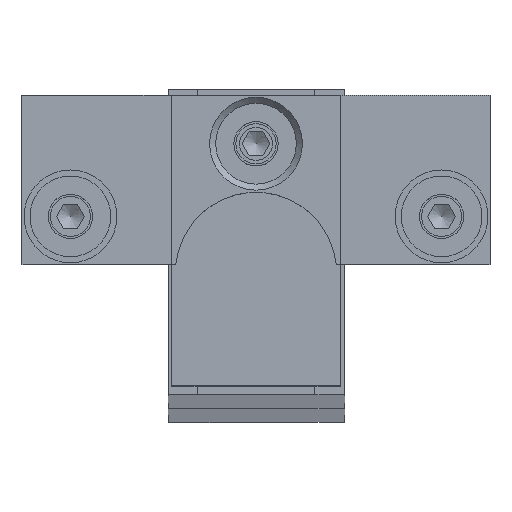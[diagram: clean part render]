
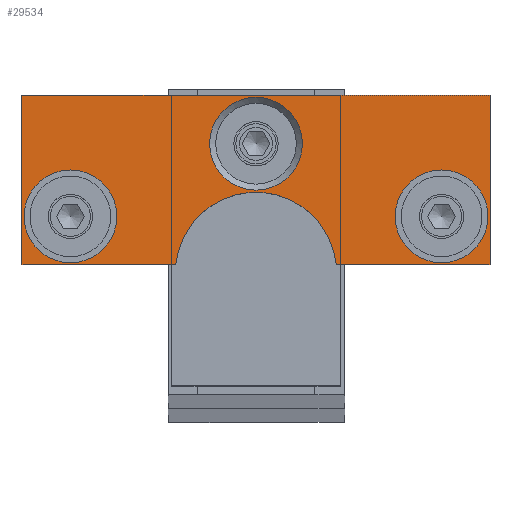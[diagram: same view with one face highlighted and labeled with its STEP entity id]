
A CAD part, top view. The second image highlights one B-rep face of the part: STEP entity #29534.
In plain terms, the highlighted planar face has unit normal (0, 0, 1).
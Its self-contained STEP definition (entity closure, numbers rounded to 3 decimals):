
#391=FACE_BOUND('',#3859,.T.);
#392=FACE_BOUND('',#3860,.T.);
#393=FACE_BOUND('',#3861,.T.);
#817=PLANE('',#31900);
#2129=FACE_OUTER_BOUND('',#3858,.T.);
#3858=EDGE_LOOP('',(#20364,#20365,#20366,#20367,#20368,#20369));
#3859=EDGE_LOOP('',(#20370));
#3860=EDGE_LOOP('',(#20371));
#3861=EDGE_LOOP('',(#20372));
#6101=LINE('',#50587,#7156);
#6102=LINE('',#50589,#7157);
#6103=LINE('',#50591,#7158);
#6104=LINE('',#50595,#7159);
#6105=LINE('',#50596,#7160);
#7156=VECTOR('',#37563,10.);
#7157=VECTOR('',#37564,10.);
#7158=VECTOR('',#37565,10.);
#7159=VECTOR('',#37568,10.);
#7160=VECTOR('',#37569,10.);
#8496=CIRCLE('',#31898,5.75);
#8498=CIRCLE('',#31901,10.);
#8499=CIRCLE('',#31902,5.75);
#8500=CIRCLE('',#31903,5.75);
#11512=VERTEX_POINT('',#50579);
#11514=VERTEX_POINT('',#50585);
#11515=VERTEX_POINT('',#50586);
#11516=VERTEX_POINT('',#50588);
#11517=VERTEX_POINT('',#50590);
#11518=VERTEX_POINT('',#50592);
#11519=VERTEX_POINT('',#50594);
#11520=VERTEX_POINT('',#50597);
#11521=VERTEX_POINT('',#50599);
#15037=EDGE_CURVE('',#11512,#11512,#8496,.T.);
#15040=EDGE_CURVE('',#11514,#11515,#6101,.T.);
#15041=EDGE_CURVE('',#11515,#11516,#6102,.T.);
#15042=EDGE_CURVE('',#11516,#11517,#6103,.T.);
#15043=EDGE_CURVE('',#11517,#11518,#8498,.T.);
#15044=EDGE_CURVE('',#11518,#11519,#6104,.T.);
#15045=EDGE_CURVE('',#11519,#11514,#6105,.T.);
#15046=EDGE_CURVE('',#11520,#11520,#8499,.T.);
#15047=EDGE_CURVE('',#11521,#11521,#8500,.T.);
#20364=ORIENTED_EDGE('',*,*,#15040,.T.);
#20365=ORIENTED_EDGE('',*,*,#15041,.T.);
#20366=ORIENTED_EDGE('',*,*,#15042,.T.);
#20367=ORIENTED_EDGE('',*,*,#15043,.T.);
#20368=ORIENTED_EDGE('',*,*,#15044,.T.);
#20369=ORIENTED_EDGE('',*,*,#15045,.T.);
#20370=ORIENTED_EDGE('',*,*,#15046,.F.);
#20371=ORIENTED_EDGE('',*,*,#15047,.F.);
#20372=ORIENTED_EDGE('',*,*,#15037,.F.);
#29534=ADVANCED_FACE('',(#2129,#391,#392,#393),#817,.T.);
#31898=AXIS2_PLACEMENT_3D('',#50580,#37556,#37557);
#31900=AXIS2_PLACEMENT_3D('',#50584,#37561,#37562);
#31901=AXIS2_PLACEMENT_3D('',#50593,#37566,#37567);
#31902=AXIS2_PLACEMENT_3D('',#50598,#37570,#37571);
#31903=AXIS2_PLACEMENT_3D('',#50600,#37572,#37573);
#37556=DIRECTION('center_axis',(0.,0.,
1.));
#37557=DIRECTION('ref_axis',(-1.,0.,0.));
#37561=DIRECTION('center_axis',(0.,0.,
1.));
#37562=DIRECTION('ref_axis',(1.,0.,0.));
#37563=DIRECTION('',(-1.,0.,0.));
#37564=DIRECTION('',(0.,-1.,0.));
#37565=DIRECTION('',(1.,0.,0.));
#37566=DIRECTION('center_axis',(0.,0.,
-1.));
#37567=DIRECTION('ref_axis',(0.995,0.1,0.));
#37568=DIRECTION('',(1.,0.,0.));
#37569=DIRECTION('',(0.,1.,0.));
#37570=DIRECTION('center_axis',(0.,0.,
1.));
#37571=DIRECTION('ref_axis',(-1.,0.,0.));
#37572=DIRECTION('center_axis',(0.,0.,
1.));
#37573=DIRECTION('ref_axis',(-1.,0.,0.));
#50579=CARTESIAN_POINT('',(39.65,22.,536.));
#50580=CARTESIAN_POINT('Origin',(33.9,22.,536.));
#50584=CARTESIAN_POINT('Origin',(10.9,27.153,536.));
#50585=CARTESIAN_POINT('',(39.9,37.,536.));
#50586=CARTESIAN_POINT('',(-18.1,37.,536.));
#50587=CARTESIAN_POINT('',(-18.1,37.,536.));
#50588=CARTESIAN_POINT('',(-18.1,16.,536.));
#50589=CARTESIAN_POINT('',(-18.1,16.,536.));
#50590=CARTESIAN_POINT('',(0.95,16.,536.));
#50591=CARTESIAN_POINT('',(0.95,16.,536.));
#50592=CARTESIAN_POINT('',(20.85,16.,536.));
#50593=CARTESIAN_POINT('Origin',(10.9,15.,536.));
#50594=CARTESIAN_POINT('',(39.9,16.,536.));
#50595=CARTESIAN_POINT('',(39.9,16.,536.));
#50596=CARTESIAN_POINT('',(39.9,37.,536.));
#50597=CARTESIAN_POINT('',(16.65,31.,536.));
#50598=CARTESIAN_POINT('Origin',(10.9,31.,536.));
#50599=CARTESIAN_POINT('',(-6.35,22.,536.));
#50600=CARTESIAN_POINT('Origin',(-12.1,22.,536.));
